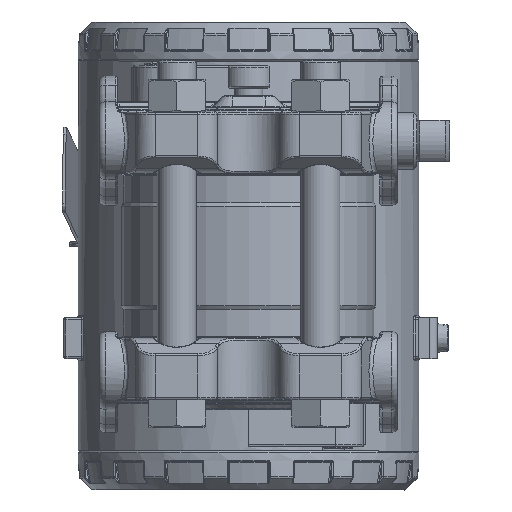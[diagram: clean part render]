
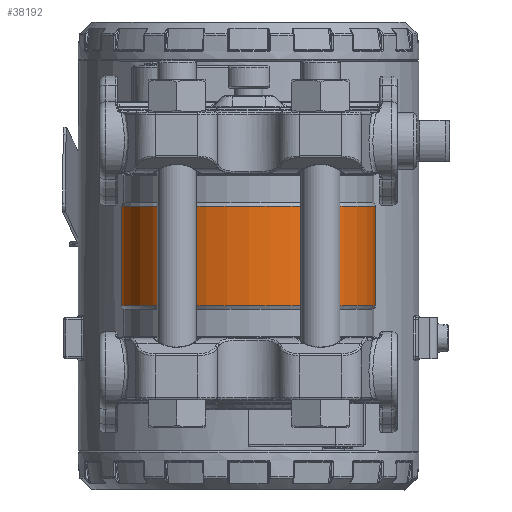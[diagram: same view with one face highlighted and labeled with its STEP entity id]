
A CAD part, left-side view. The second image highlights one B-rep face of the part: STEP entity #38192.
In plain terms, the highlighted cylindrical face has radius 31 mm (diameter 62 mm), a partial arc.
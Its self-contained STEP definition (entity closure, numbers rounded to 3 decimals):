
#2316=B_SPLINE_CURVE_WITH_KNOTS('',3,(#68980,#68981,#68982,#68983,#68984,
#68985),.UNSPECIFIED.,.F.,.F.,(4,1,1,4),(0.383,0.548,
0.913,1.279),.UNSPECIFIED.);
#2318=B_SPLINE_CURVE_WITH_KNOTS('',3,(#68998,#68999,#69000,#69001,#69002,
#69003),.UNSPECIFIED.,.F.,.F.,(4,1,1,4),(0.,0.274,0.548,
0.896),.UNSPECIFIED.);
#2319=B_SPLINE_CURVE_WITH_KNOTS('',3,(#69006,#69007,#69008,#69009,#69010,
#69011),.UNSPECIFIED.,.F.,.F.,(4,1,1,4),(0.383,0.548,
0.913,1.279),.UNSPECIFIED.);
#2320=B_SPLINE_CURVE_WITH_KNOTS('',3,(#69013,#69014,#69015,#69016,#69017,
#69018),.UNSPECIFIED.,.F.,.F.,(4,1,1,4),(0.,0.274,
0.548,0.895),.UNSPECIFIED.);
#3913=CYLINDRICAL_SURFACE('',#42186,31.);
#5167=FACE_OUTER_BOUND('',#7735,.T.);
#7735=EDGE_LOOP('',(#29070,#29071,#29072,#29073,#29074,#29075,#29076,#29077,
#29078,#29079));
#9937=LINE('',#69005,#11312);
#9938=LINE('',#69019,#11313);
#11312=VECTOR('',#49599,10.);
#11313=VECTOR('',#49600,10.);
#13315=CIRCLE('',#42166,31.);
#13318=CIRCLE('',#42169,31.);
#13324=CIRCLE('',#42179,31.);
#13325=CIRCLE('',#42180,31.);
#16485=VERTEX_POINT('',#68847);
#16487=VERTEX_POINT('',#68860);
#16488=VERTEX_POINT('',#68873);
#16500=VERTEX_POINT('',#68916);
#16501=VERTEX_POINT('',#68918);
#16502=VERTEX_POINT('',#68930);
#16504=VERTEX_POINT('',#68979);
#16507=VERTEX_POINT('',#68997);
#16508=VERTEX_POINT('',#69004);
#16509=VERTEX_POINT('',#69012);
#20904=EDGE_CURVE('',#16488,#16487,#13315,.T.);
#20908=EDGE_CURVE('',#16485,#16488,#13318,.T.);
#20920=EDGE_CURVE('',#16501,#16500,#13324,.T.);
#20923=EDGE_CURVE('',#16500,#16502,#13325,.T.);
#20927=EDGE_CURVE('',#16485,#16504,#2316,.T.);
#20931=EDGE_CURVE('',#16507,#16487,#2318,.T.);
#20932=EDGE_CURVE('',#16508,#16507,#9937,.T.);
#20933=EDGE_CURVE('',#16501,#16508,#2319,.T.);
#20934=EDGE_CURVE('',#16509,#16502,#2320,.T.);
#20935=EDGE_CURVE('',#16504,#16509,#9938,.T.);
#29070=ORIENTED_EDGE('',*,*,#20908,.T.);
#29071=ORIENTED_EDGE('',*,*,#20904,.T.);
#29072=ORIENTED_EDGE('',*,*,#20931,.F.);
#29073=ORIENTED_EDGE('',*,*,#20932,.F.);
#29074=ORIENTED_EDGE('',*,*,#20933,.F.);
#29075=ORIENTED_EDGE('',*,*,#20920,.T.);
#29076=ORIENTED_EDGE('',*,*,#20923,.T.);
#29077=ORIENTED_EDGE('',*,*,#20934,.F.);
#29078=ORIENTED_EDGE('',*,*,#20935,.F.);
#29079=ORIENTED_EDGE('',*,*,#20927,.F.);
#38192=ADVANCED_FACE('',(#5167),#3913,.T.);
#42166=AXIS2_PLACEMENT_3D('',#68874,#49553,#49554);
#42169=AXIS2_PLACEMENT_3D('',#68880,#49560,#49561);
#42179=AXIS2_PLACEMENT_3D('',#68919,#49582,#49583);
#42180=AXIS2_PLACEMENT_3D('',#68943,#49584,#49585);
#42186=AXIS2_PLACEMENT_3D('',#68996,#49597,#49598);
#49553=DIRECTION('center_axis',(0.,0.,1.));
#49554=DIRECTION('ref_axis',(-1.,0.,0.));
#49560=DIRECTION('center_axis',(0.,0.,1.));
#49561=DIRECTION('ref_axis',(-1.,0.,0.));
#49582=DIRECTION('center_axis',(0.,0.,-1.));
#49583=DIRECTION('ref_axis',(-1.,0.,0.));
#49584=DIRECTION('center_axis',(0.,0.,-1.));
#49585=DIRECTION('ref_axis',(-1.,0.,0.));
#49597=DIRECTION('center_axis',(0.,0.,1.));
#49598=DIRECTION('ref_axis',(-1.,0.,0.));
#49599=DIRECTION('',(0.,0.,-1.));
#49600=DIRECTION('',(0.,0.,1.));
#68847=CARTESIAN_POINT('',(29.987,7.86,-12.134));
#68860=CARTESIAN_POINT('',(29.987,-7.86,-12.134));
#68873=CARTESIAN_POINT('',(-31.,0.,-12.134));
#68874=CARTESIAN_POINT('Origin',(0.,0.,-12.134));
#68880=CARTESIAN_POINT('Origin',(0.,0.,-12.134));
#68916=CARTESIAN_POINT('',(-31.,0.,12.134));
#68918=CARTESIAN_POINT('',(29.987,-7.86,12.134));
#68919=CARTESIAN_POINT('Origin',(0.,0.,12.134));
#68930=CARTESIAN_POINT('',(29.987,7.86,12.134));
#68943=CARTESIAN_POINT('Origin',(0.,0.,12.134));
#68979=CARTESIAN_POINT('',(28.645,11.853,-5.));
#68980=CARTESIAN_POINT('Ctrl Pts',(29.985,7.857,-12.131));
#68981=CARTESIAN_POINT('Ctrl Pts',(29.871,8.293,-11.889));
#68982=CARTESIAN_POINT('Ctrl Pts',(29.495,9.621,-10.961));
#68983=CARTESIAN_POINT('Ctrl Pts',(28.867,11.328,-8.643));
#68984=CARTESIAN_POINT('Ctrl Pts',(28.645,11.853,-6.218));
#68985=CARTESIAN_POINT('Ctrl Pts',(28.645,11.853,-5.));
#68996=CARTESIAN_POINT('Origin',(0.,0.,0.));
#68997=CARTESIAN_POINT('',(28.645,-11.853,-5.));
#68998=CARTESIAN_POINT('Ctrl Pts',(28.645,-11.853,-5.));
#68999=CARTESIAN_POINT('Ctrl Pts',(28.645,-11.853,-5.913));
#69000=CARTESIAN_POINT('Ctrl Pts',(28.767,-11.563,-7.738));
#69001=CARTESIAN_POINT('Ctrl Pts',(29.282,-10.232,-10.332));
#69002=CARTESIAN_POINT('Ctrl Pts',(29.747,-8.777,-11.623));
#69003=CARTESIAN_POINT('Ctrl Pts',(29.987,-7.86,-12.134));
#69004=CARTESIAN_POINT('',(28.645,-11.853,5.));
#69005=CARTESIAN_POINT('',(28.645,-11.853,0.));
#69006=CARTESIAN_POINT('Ctrl Pts',(29.985,-7.857,12.131));
#69007=CARTESIAN_POINT('Ctrl Pts',(29.871,-8.293,11.889));
#69008=CARTESIAN_POINT('Ctrl Pts',(29.495,-9.621,10.961));
#69009=CARTESIAN_POINT('Ctrl Pts',(28.867,-11.328,8.643));
#69010=CARTESIAN_POINT('Ctrl Pts',(28.645,-11.853,6.218));
#69011=CARTESIAN_POINT('Ctrl Pts',(28.645,-11.853,5.));
#69012=CARTESIAN_POINT('',(28.645,11.853,5.));
#69013=CARTESIAN_POINT('Ctrl Pts',(28.645,11.853,5.));
#69014=CARTESIAN_POINT('Ctrl Pts',(28.645,11.853,5.913));
#69015=CARTESIAN_POINT('Ctrl Pts',(28.767,11.563,7.738));
#69016=CARTESIAN_POINT('Ctrl Pts',(29.282,10.232,10.332));
#69017=CARTESIAN_POINT('Ctrl Pts',(29.747,8.777,11.623));
#69018=CARTESIAN_POINT('Ctrl Pts',(29.987,7.86,12.134));
#69019=CARTESIAN_POINT('',(28.645,11.853,0.));
